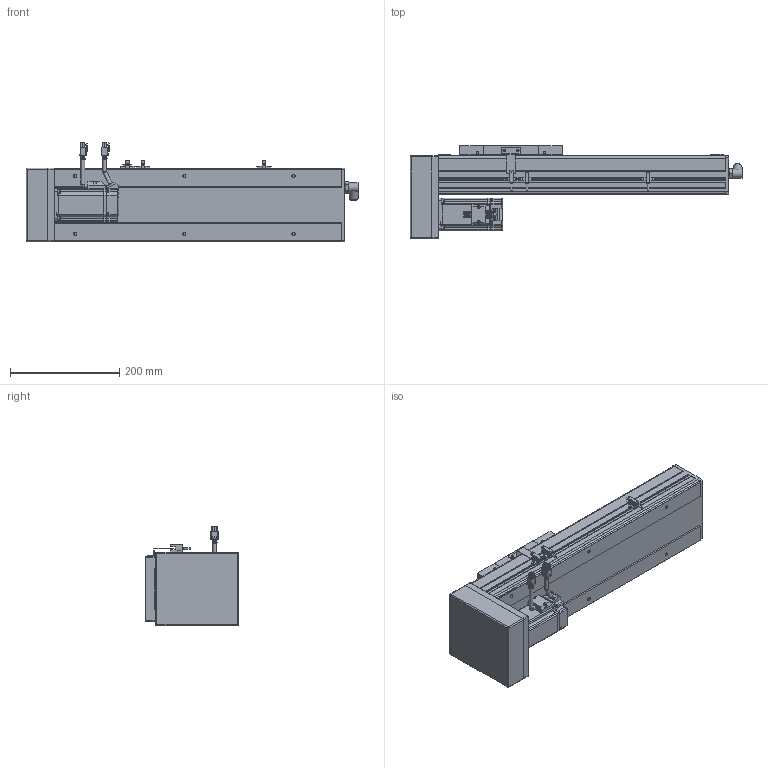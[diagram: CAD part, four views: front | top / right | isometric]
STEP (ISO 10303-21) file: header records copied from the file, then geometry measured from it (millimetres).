
FILE_DESCRIPTION(/* description */ ('STEP AP214'),/* implementation_level */ '2;1');
FILE_NAME(/* name */ 'PSC140-L05-S250-BM-P40-C1-N(0)',/* time_stamp */ '2022-06-13T03:20:26+02:00',/* author */ ('License CC BY-ND 4.0'),/* organization */ ('CADENAS'),/* preprocessor_version */ 'ST-DEVELOPER v18.102',/* originating_system */ 'PARTsolutions',/* authorisation */ ' ');
FILE_SCHEMA (('AUTOMOTIVE_DESIGN {1 0 10303 214 3 1 1}'));
Length unit declared in the file: millimetre
Products named in the file (11): PSC140-L05-S250-BM-P40-C1-N(0); P40-s2; P40-c2; P40-s1; P40-c1; P40-p1; PSC140-BM-body2; PSC140-sensor; PSC140-BM-SLIDER; PSC140-S250-BM-P40-C1_BODY1; PSC140-L05-S250-BM-P40-C1-N(0)_dummy
Assembly tree (12 placements, depth 2):
  PSC140-L05-S250-BM-P40-C1-N(0)
    P40-s2
    P40-c2
    P40-s1
    P40-c1
    P40-p1
    PSC140-BM-body2
    PSC140-sensor  x3
    PSC140-BM-SLIDER
    PSC140-S250-BM-P40-C1_BODY1
    PSC140-L05-S250-BM-P40-C1-N(0)_dummy
Bounding box: 608 x 171.5 x 182.48 mm (x, y, z)
Volume: 6883142 mm3; surface area: 457860.9 mm2
Topology: 11 solids, 11 shells, 1213 faces, 3149 edges, 2085 vertices
Faces by surface type: plane 852, cylinder 308, cone 34, torus 19
Full cylindrical faces by diameter (mm): 1 x8, 2.6 x10, 2.8 x3, 3.3 x8, 4.5 x12, 4.6 x3, 4.917 x10, 5 x4, 5.5 x8, 6 x10, 7 x10, 9 x2, 10 x1, 11 x1, 12 x1, 13.74 x1, 14 x1, 16.4 x2, 16.5 x1, 36 x1, 50 x2
Entity records: 33726 total; most frequent: CARTESIAN_POINT 5899, DIRECTION 5659, ORIENTED_EDGE 5498, EDGE_CURVE 2749, LINE 2097, VECTOR 2097, VERTEX_POINT 1906, AXIS2_PLACEMENT_3D 1781
